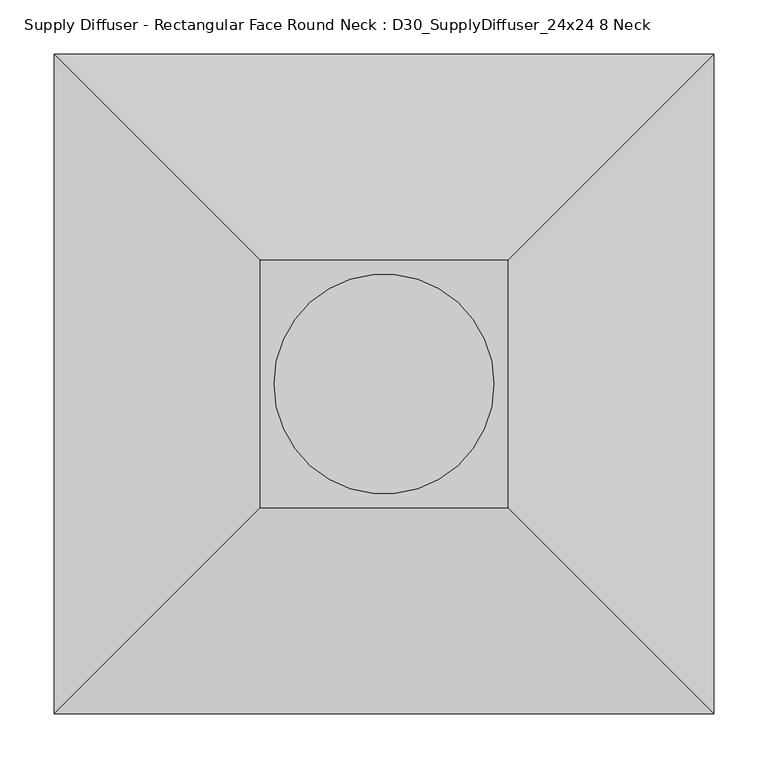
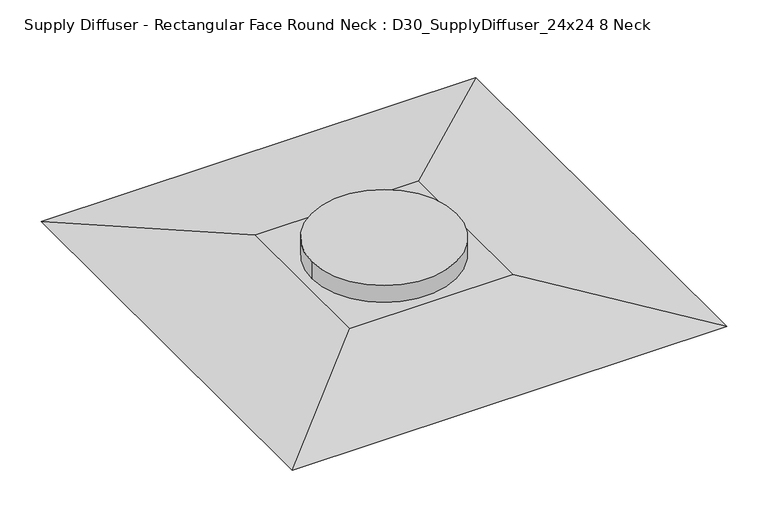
"""IFC4 building model written with IfcOpenShell, lengths in millimetres: air terminal geometry, Supply Diffuser - Rectangular Face Round Neck : D30_SupplyDiffuser_24x24 8 Neck."""

from ifc_helpers import new_model, si_unit, point, frame, origin, origin_2d, place, context, project, spatial, circle_curve, trimmed, segment, composite_curve, outline, extrude, faceted_brep, source, transform, mapped, element, save


def supply_diffuser_rectangular_face_round_neck_d30_79c6f163(model_context):
    return source(origin(), model_context, "Body", "SolidModel", [
        faceted_brep([(114.3, -114.3, 28.575), (114.3, 114.3, 28.575), (-114.3, 114.3, 28.575), (-114.3, -114.3, 28.575), (304.8, -304.8, 0.0), (-304.8, -304.8, 0.0), (-304.8, 304.8, 0.0), (304.8, 304.8, 0.0)], [[[0, 1, 2, 3]], [[4, 5, 6, 7]], [[4, 0, 3, 5]], [[5, 3, 2, 6]], [[6, 2, 1, 7]], [[7, 1, 0, 4]]]),
        extrude(outline(composite_curve([segment(trimmed(circle_curve(origin_2d(), 101.6), [point((-101.6, 0.0))], [point((101.6, 0.0))], False, "CARTESIAN"), True, "CONTINUOUS"), segment(trimmed(circle_curve(origin_2d(), 101.6), [point((101.6, 0.0))], [point((-101.6, 0.0))], False, "CARTESIAN"), True, "CONTINUOUS")], self_intersect=False)), frame((0.0, 0.0, 28.575), z_axis=(0.0, 0.0, 1.0), x_axis=(1.0, 0.0, 0.0)), (0.0, 0.0, 1.0), 25.4),
    ])


if __name__ == "__main__":
    model = new_model("IFC4")
    model_context = context("Model", 3, world=origin())
    ifc_project = project(units=[si_unit("LENGTHUNIT", "METRE", prefix="MILLI")], contexts=[model_context])
    site = spatial("IfcSite", under=ifc_project)
    building = spatial("IfcBuilding", under=site)
    placement = place(None, origin())
    supply_diffuser_rectangular_face_round_neck_d30_shape = supply_diffuser_rectangular_face_round_neck_d30_79c6f163(model_context)
    element("IfcAirTerminal", 1, ObjectType="Supply Diffuser - Rectangular Face Round Neck : D30_SupplyDiffuser_24x24 8 Neck", at=placement, inside=building, context=model_context, shape_type="MappedRepresentation", body=[
        mapped(supply_diffuser_rectangular_face_round_neck_d30_shape, transform((0.0, 0.0, 0.0), x_axis=(1.0, 0.0, 0.0), y_axis=(0.0, 1.0, 0.0), z_axis=(0.0, 0.0, 1.0))),
    ])
    save(model, "model.ifc")
